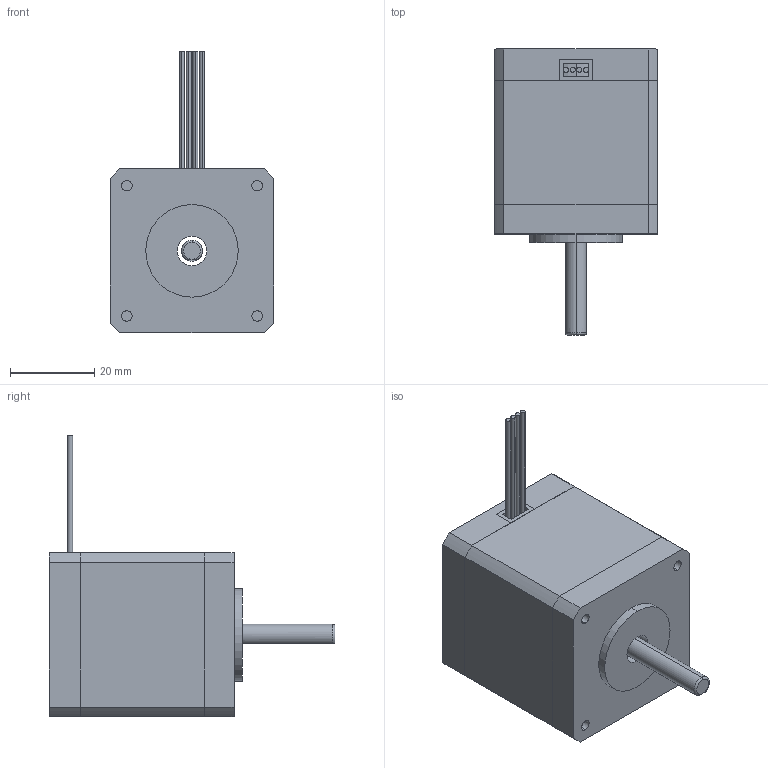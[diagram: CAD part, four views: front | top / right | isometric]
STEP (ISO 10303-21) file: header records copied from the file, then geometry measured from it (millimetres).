
FILE_DESCRIPTION (( 'STEP AP214' ), '1' );
FILE_NAME ('39BYGH244-A.STEP', '2020-05-22T07:00:59', ( 'Windows' ), ( 'Microsoft' ), 'SwSTEP 2.0', 'SolidWorks 2015', '' );
FILE_SCHEMA (( 'AUTOMOTIVE_DESIGN' ));
Length unit declared in the file: millimetre
Products named in the file (7): 39D16-B綴傷裔; 粣; 39BYGH244-A; 盄旰; 隅赽; 39D16-Aヶ傷裔; M3蹟隊
Assembly tree (9 placements, depth 2):
  39BYGH244-A
    隅赽
    39D16-Aヶ傷裔
    39D16-B綴傷裔
    M3蹟隊  x4
    盄旰
    粣
Bounding box: 39 x 68 x 67 mm (x, y, z)
Volume: 52198.9 mm3; surface area: 22573.8 mm2
Topology: 13 solids, 13 shells, 226 faces, 530 edges, 344 vertices
Faces by surface type: plane 106, cylinder 100, torus 20
Entity records: 5199 total; most frequent: DIRECTION 850, CARTESIAN_POINT 785, ORIENTED_EDGE 718, EDGE_CURVE 359, AXIS2_PLACEMENT_3D 327, VERTEX_POINT 236, LINE 196, VECTOR 196
